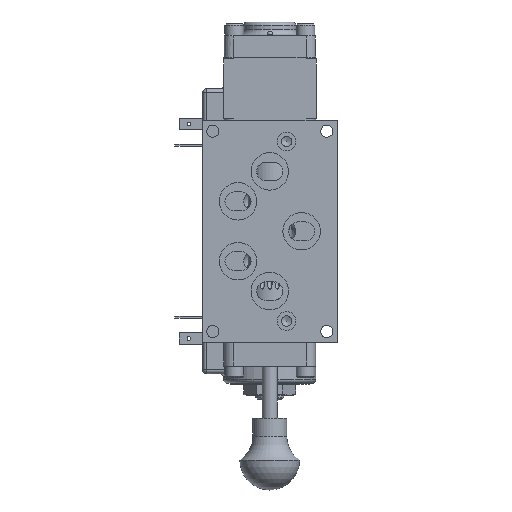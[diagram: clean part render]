
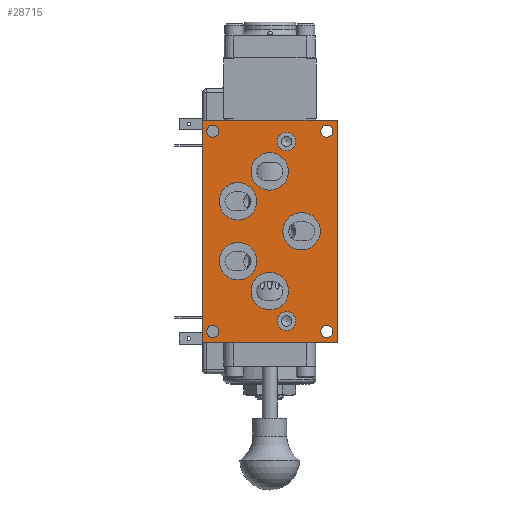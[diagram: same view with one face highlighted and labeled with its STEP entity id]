
A CAD part, front view. The second image highlights one B-rep face of the part: STEP entity #28715.
In plain terms, the highlighted planar face has unit normal (0, -1, 0).
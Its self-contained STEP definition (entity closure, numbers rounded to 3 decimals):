
#1322=FACE_BOUND('',#4650,.T.);
#1323=FACE_BOUND('',#4651,.T.);
#1324=FACE_BOUND('',#4652,.T.);
#1325=FACE_BOUND('',#4653,.T.);
#1326=FACE_BOUND('',#4654,.T.);
#1327=FACE_BOUND('',#4655,.T.);
#1328=FACE_BOUND('',#4656,.T.);
#1329=FACE_BOUND('',#4657,.T.);
#1330=FACE_BOUND('',#4658,.T.);
#1331=FACE_BOUND('',#4659,.T.);
#1332=FACE_BOUND('',#4660,.T.);
#1783=PLANE('',#30988);
#2881=FACE_OUTER_BOUND('',#4649,.T.);
#4649=EDGE_LOOP('',(#20709,#20710,#20711,#20712));
#4650=EDGE_LOOP('',(#20713));
#4651=EDGE_LOOP('',(#20714));
#4652=EDGE_LOOP('',(#20715));
#4653=EDGE_LOOP('',(#20716));
#4654=EDGE_LOOP('',(#20717));
#4655=EDGE_LOOP('',(#20718));
#4656=EDGE_LOOP('',(#20719));
#4657=EDGE_LOOP('',(#20720));
#4658=EDGE_LOOP('',(#20721));
#4659=EDGE_LOOP('',(#20722));
#4660=EDGE_LOOP('',(#20723));
#6587=LINE('',#48176,#8571);
#6599=LINE('',#48209,#8583);
#6617=LINE('',#48526,#8601);
#6618=LINE('',#48527,#8602);
#8571=VECTOR('',#35552,1.);
#8583=VECTOR('',#35574,1.);
#8601=VECTOR('',#35698,1.);
#8602=VECTOR('',#35699,1.);
#10525=CIRCLE('',#30989,0.396);
#10526=CIRCLE('',#30990,0.396);
#10527=CIRCLE('',#30991,0.794);
#10528=CIRCLE('',#30992,0.794);
#10529=CIRCLE('',#30993,0.794);
#10530=CIRCLE('',#30994,0.794);
#10531=CIRCLE('',#30995,0.794);
#10532=CIRCLE('',#30996,0.258);
#10533=CIRCLE('',#30997,0.258);
#10534=CIRCLE('',#30998,0.258);
#10535=CIRCLE('',#30999,0.258);
#12278=VERTEX_POINT('',#48172);
#12280=VERTEX_POINT('',#48175);
#12294=VERTEX_POINT('',#48205);
#12296=VERTEX_POINT('',#48208);
#12340=VERTEX_POINT('',#48528);
#12341=VERTEX_POINT('',#48530);
#12342=VERTEX_POINT('',#48532);
#12343=VERTEX_POINT('',#48534);
#12344=VERTEX_POINT('',#48536);
#12345=VERTEX_POINT('',#48538);
#12346=VERTEX_POINT('',#48540);
#12347=VERTEX_POINT('',#48542);
#12348=VERTEX_POINT('',#48544);
#12349=VERTEX_POINT('',#48546);
#12350=VERTEX_POINT('',#48548);
#15330=EDGE_CURVE('',#12280,#12278,#6587,.T.);
#15346=EDGE_CURVE('',#12296,#12294,#6599,.T.);
#15408=EDGE_CURVE('',#12294,#12280,#6617,.T.);
#15409=EDGE_CURVE('',#12278,#12296,#6618,.T.);
#15410=EDGE_CURVE('',#12340,#12340,#10525,.T.);
#15411=EDGE_CURVE('',#12341,#12341,#10526,.T.);
#15412=EDGE_CURVE('',#12342,#12342,#10527,.T.);
#15413=EDGE_CURVE('',#12343,#12343,#10528,.T.);
#15414=EDGE_CURVE('',#12344,#12344,#10529,.T.);
#15415=EDGE_CURVE('',#12345,#12345,#10530,.T.);
#15416=EDGE_CURVE('',#12346,#12346,#10531,.T.);
#15417=EDGE_CURVE('',#12347,#12347,#10532,.T.);
#15418=EDGE_CURVE('',#12348,#12348,#10533,.T.);
#15419=EDGE_CURVE('',#12349,#12349,#10534,.T.);
#15420=EDGE_CURVE('',#12350,#12350,#10535,.T.);
#20709=ORIENTED_EDGE('',*,*,#15346,.T.);
#20710=ORIENTED_EDGE('',*,*,#15408,.T.);
#20711=ORIENTED_EDGE('',*,*,#15330,.T.);
#20712=ORIENTED_EDGE('',*,*,#15409,.T.);
#20713=ORIENTED_EDGE('',*,*,#15410,.T.);
#20714=ORIENTED_EDGE('',*,*,#15411,.T.);
#20715=ORIENTED_EDGE('',*,*,#15412,.T.);
#20716=ORIENTED_EDGE('',*,*,#15413,.T.);
#20717=ORIENTED_EDGE('',*,*,#15414,.T.);
#20718=ORIENTED_EDGE('',*,*,#15415,.T.);
#20719=ORIENTED_EDGE('',*,*,#15416,.T.);
#20720=ORIENTED_EDGE('',*,*,#15417,.T.);
#20721=ORIENTED_EDGE('',*,*,#15418,.T.);
#20722=ORIENTED_EDGE('',*,*,#15419,.T.);
#20723=ORIENTED_EDGE('',*,*,#15420,.T.);
#28715=ADVANCED_FACE('',(#2881,#1322,#1323,#1324,#1325,#1326,#1327,#1328,
#1329,#1330,#1331,#1332),#1783,.T.);
#30988=AXIS2_PLACEMENT_3D('',#48525,#35696,#35697);
#30989=AXIS2_PLACEMENT_3D('',#48529,#35700,#35701);
#30990=AXIS2_PLACEMENT_3D('',#48531,#35702,#35703);
#30991=AXIS2_PLACEMENT_3D('',#48533,#35704,#35705);
#30992=AXIS2_PLACEMENT_3D('',#48535,#35706,#35707);
#30993=AXIS2_PLACEMENT_3D('',#48537,#35708,#35709);
#30994=AXIS2_PLACEMENT_3D('',#48539,#35710,#35711);
#30995=AXIS2_PLACEMENT_3D('',#48541,#35712,#35713);
#30996=AXIS2_PLACEMENT_3D('',#48543,#35714,#35715);
#30997=AXIS2_PLACEMENT_3D('',#48545,#35716,#35717);
#30998=AXIS2_PLACEMENT_3D('',#48547,#35718,#35719);
#30999=AXIS2_PLACEMENT_3D('',#48549,#35720,#35721);
#35552=DIRECTION('',(1.,0.,0.));
#35574=DIRECTION('',(-1.,0.,0.));
#35696=DIRECTION('center_axis',(0.,-1.,0.));
#35697=DIRECTION('ref_axis',(0.,0.,-1.));
#35698=DIRECTION('',(0.,0.,-1.));
#35699=DIRECTION('',(0.,0.,1.));
#35700=DIRECTION('center_axis',(0.,1.,0.));
#35701=DIRECTION('ref_axis',(1.,0.,0.));
#35702=DIRECTION('center_axis',(0.,1.,0.));
#35703=DIRECTION('ref_axis',(1.,0.,0.));
#35704=DIRECTION('center_axis',(0.,1.,0.));
#35705=DIRECTION('ref_axis',(1.,0.,0.));
#35706=DIRECTION('center_axis',(0.,1.,0.));
#35707=DIRECTION('ref_axis',(1.,0.,0.));
#35708=DIRECTION('center_axis',(0.,1.,0.));
#35709=DIRECTION('ref_axis',(1.,0.,0.));
#35710=DIRECTION('center_axis',(0.,1.,0.));
#35711=DIRECTION('ref_axis',(1.,0.,0.));
#35712=DIRECTION('center_axis',(0.,1.,0.));
#35713=DIRECTION('ref_axis',(1.,0.,0.));
#35714=DIRECTION('center_axis',(0.,1.,0.));
#35715=DIRECTION('ref_axis',(1.,0.,0.));
#35716=DIRECTION('center_axis',(0.,1.,0.));
#35717=DIRECTION('ref_axis',(1.,0.,0.));
#35718=DIRECTION('center_axis',(0.,1.,0.));
#35719=DIRECTION('ref_axis',(1.,0.,0.));
#35720=DIRECTION('center_axis',(0.,1.,0.));
#35721=DIRECTION('ref_axis',(1.,0.,0.));
#48172=CARTESIAN_POINT('',(2.858,-1.636,-4.71));
#48175=CARTESIAN_POINT('',(-2.858,-1.636,-4.71));
#48176=CARTESIAN_POINT('',(-2.858,-1.636,-4.71));
#48205=CARTESIAN_POINT('',(-2.858,-1.636,4.71));
#48208=CARTESIAN_POINT('',(2.858,-1.636,4.71));
#48209=CARTESIAN_POINT('',(-2.858,-1.636,4.71));
#48525=CARTESIAN_POINT('Origin',(2.858,-1.636,0.));
#48526=CARTESIAN_POINT('',(-2.858,-1.636,0.));
#48527=CARTESIAN_POINT('',(2.858,-1.636,0.));
#48528=CARTESIAN_POINT('',(0.318,-1.636,-3.81));
#48529=CARTESIAN_POINT('Origin',(0.714,-1.636,-3.81));
#48530=CARTESIAN_POINT('',(0.318,-1.636,3.81));
#48531=CARTESIAN_POINT('Origin',(0.714,-1.636,3.81));
#48532=CARTESIAN_POINT('',(0.555,-1.636,0.));
#48533=CARTESIAN_POINT('Origin',(1.349,-1.636,0.));
#48534=CARTESIAN_POINT('',(-0.794,-1.636,-2.54));
#48535=CARTESIAN_POINT('Origin',(0.,-1.636,-2.54));
#48536=CARTESIAN_POINT('',(-0.794,-1.636,2.54));
#48537=CARTESIAN_POINT('Origin',(0.,-1.636,2.54));
#48538=CARTESIAN_POINT('',(-2.142,-1.636,-1.27));
#48539=CARTESIAN_POINT('Origin',(-1.349,-1.636,-1.27));
#48540=CARTESIAN_POINT('',(-2.142,-1.636,1.27));
#48541=CARTESIAN_POINT('Origin',(-1.349,-1.636,1.27));
#48542=CARTESIAN_POINT('',(-2.679,-1.636,4.247));
#48543=CARTESIAN_POINT('Origin',(-2.421,-1.636,4.247));
#48544=CARTESIAN_POINT('',(2.163,-1.636,4.247));
#48545=CARTESIAN_POINT('Origin',(2.421,-1.636,4.247));
#48546=CARTESIAN_POINT('',(2.163,-1.636,-4.247));
#48547=CARTESIAN_POINT('Origin',(2.421,-1.636,-4.247));
#48548=CARTESIAN_POINT('',(-2.679,-1.636,-4.247));
#48549=CARTESIAN_POINT('Origin',(-2.421,-1.636,-4.247));
